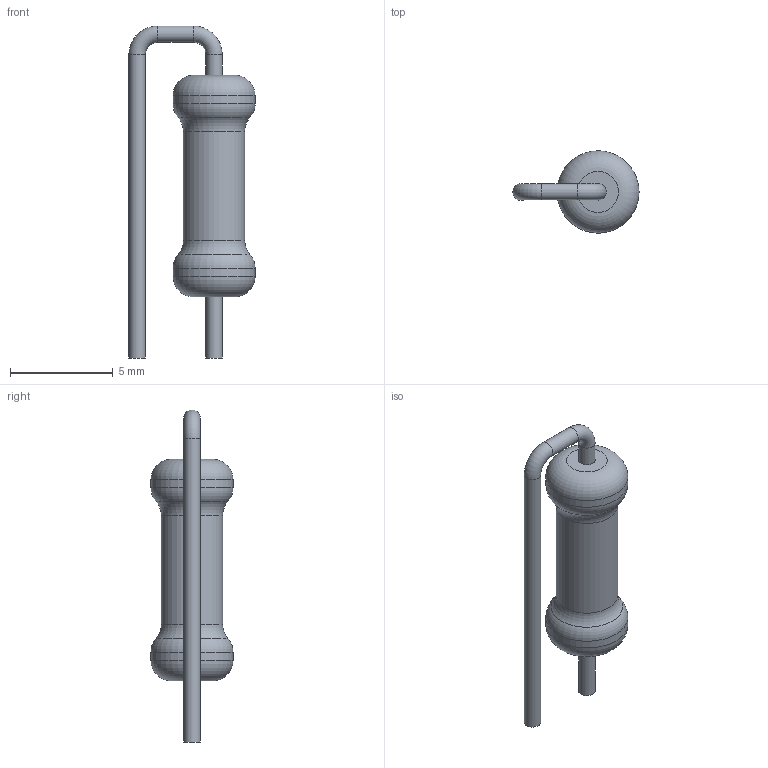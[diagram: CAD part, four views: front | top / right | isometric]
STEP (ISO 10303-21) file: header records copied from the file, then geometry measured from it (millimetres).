
FILE_DESCRIPTION(('STEP AP203'), '1');
FILE_NAME('栖闉罻', '', ('UNSPECIFIED'), ('UNSPECIFIED'), 'ASCON STEP Converter 1.6', 'ASCON Math Kernel', '');
FILE_SCHEMA(('CONFIG_CONTROL_DESIGN'));
Length unit declared in the file: millimetre
Assembly tree (1 placements, depth 2):
  (unnamed)
    (unnamed)
Bounding box: 6.15 x 4 x 16.18 mm (x, y, z)
Volume: 105.9 mm3; surface area: 190.3 mm2
Topology: 1 solids, 1 shells, 19 faces, 33 edges, 18 vertices
Faces by surface type: torus 8, cylinder 7, plane 4
Full cylindrical faces by diameter (mm): 0.8 x4, 3 x1, 4 x2
Entity records: 620 total; most frequent: DIRECTION 78, CARTESIAN_POINT 57, AXIS2_PLACEMENT_3D 39, EDGE_LOOP 36, ORIENTED_EDGE 36, FACE_OUTER_BOUND 30, COLOUR_RGB 20, FILL_AREA_STYLE_COLOUR 20
